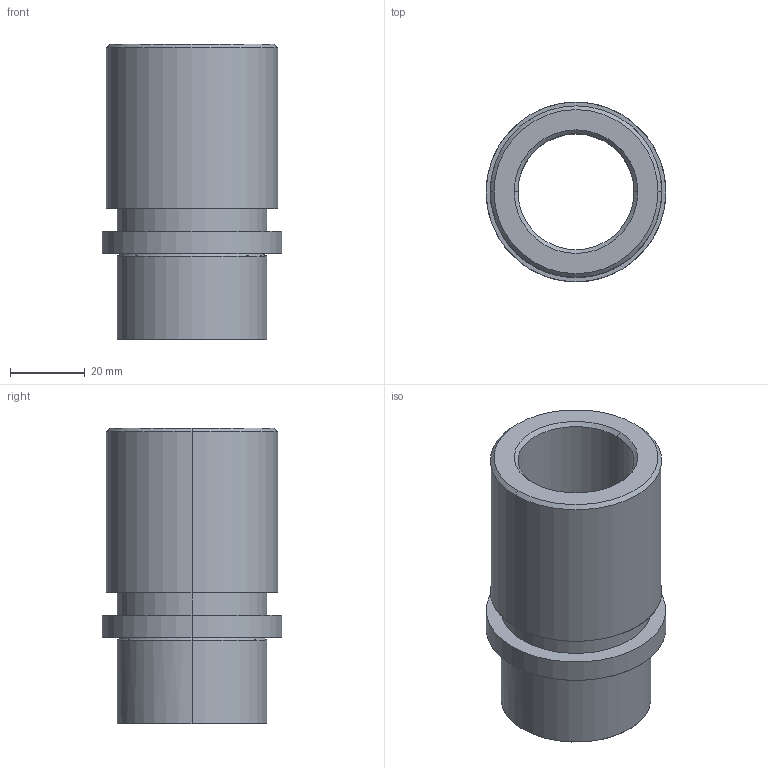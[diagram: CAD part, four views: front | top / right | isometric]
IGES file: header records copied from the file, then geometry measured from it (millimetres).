
Start section: START RECORD GO HERE.
Global section: file name: 733-25.igs; native system: DASSAULT SYSTEMES CATIA V5 R20 - www.3ds.com; preprocessor: CATIA Version 5 Release 20 ; author: Utente; organization: NB04-ASUS; date: 20210111.183840; units: millimetre
Bounding box: 48 x 48 x 79 mm (x, y, z)
Surface area: 21469 mm2 (no closed solid volume)
Topology: 0 solids, 0 shells, 25 faces, 100 edges, 100 vertices
Faces by surface type: revolution 20, plane 5
